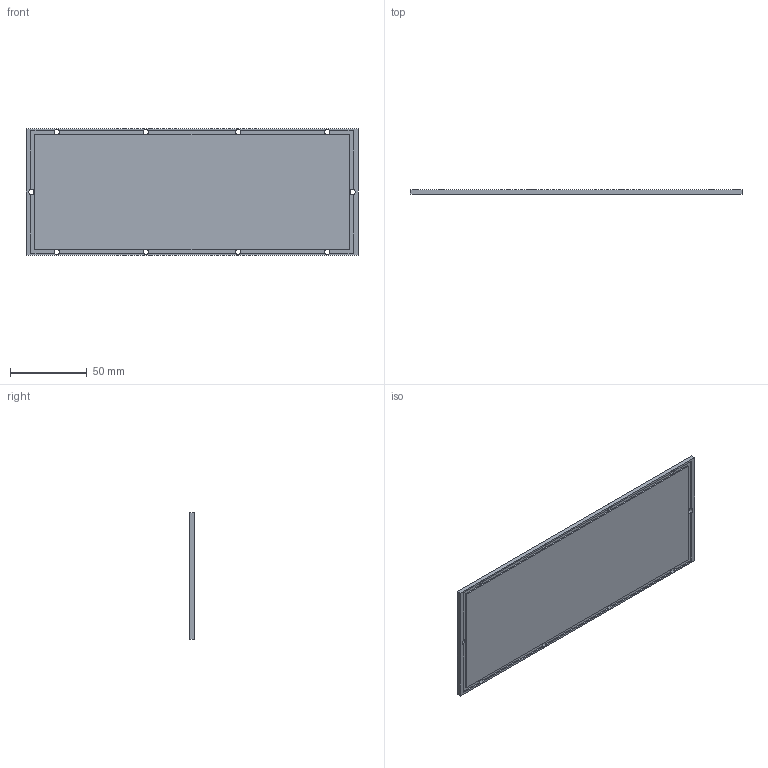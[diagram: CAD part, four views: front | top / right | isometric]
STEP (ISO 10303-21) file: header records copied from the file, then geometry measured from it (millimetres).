
FILE_DESCRIPTION(('Open CASCADE Model'),'2;1');
FILE_NAME('Open CASCADE Shape Model','2026-08-16T15:13:29',('Author'),( 'Open CASCADE'),'Open CASCADE STEP processor 7.9','Open CASCADE 7.9' ,'Unknown');
FILE_SCHEMA(('AUTOMOTIVE_DESIGN { 1 0 10303 214 1 1 1 1 }'));
Length unit declared in the file: millimetre
Products named in the file (1): Open CASCADE STEP translator 7.9 4
Bounding box: 216 x 2.8 x 82 mm (x, y, z)
Volume: 48059.7 mm3; surface area: 38139.5 mm2
Topology: 1 solids, 1 shells, 36 faces, 126 edges, 84 vertices
Faces by surface type: plane 26, cylinder 10
Full cylindrical faces by diameter (mm): 3.5 x10
Entity records: 2986 total; most frequent: CARTESIAN_POINT 571, DIRECTION 420, ORIENTED_EDGE 252, PCURVE 252, DEFINITIONAL_REPRESENTATION 252, LINE 226, VECTOR 226, EDGE_CURVE 126
